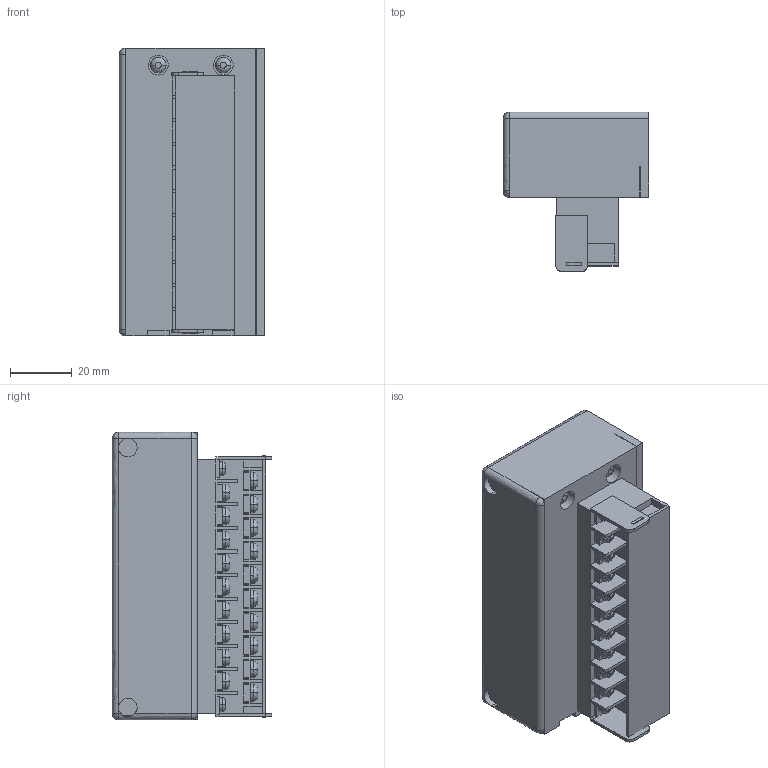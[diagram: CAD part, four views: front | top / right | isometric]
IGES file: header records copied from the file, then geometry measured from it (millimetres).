
Start section: ------------------------------------------------------------------------
Global section: file name: D:\ICADMX\tmp\trans3d_spg\CVICAD32.14756.FZX-T200_10214.igs; native system: spGate; preprocessor: ver12.6.6; author: Unknown; organization: Unknown; date: 200909.091759; units: millimetre
Bounding box: 47 x 51.5 x 93 mm (x, y, z)
Volume: 142519 mm3; surface area: 33028.5 mm2
Topology: 2 solids, 2 shells, 964 faces, 2677 edges, 1760 vertices
Faces by surface type: bspline 964
